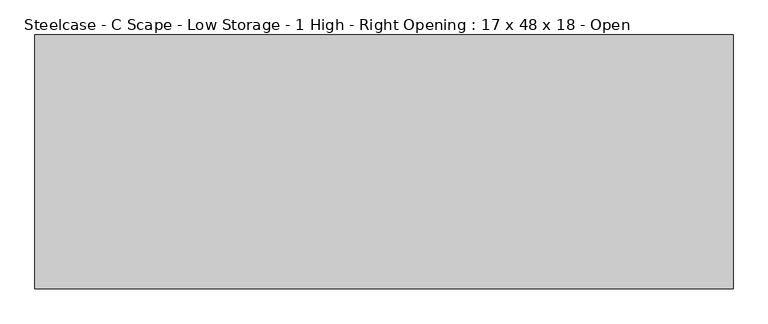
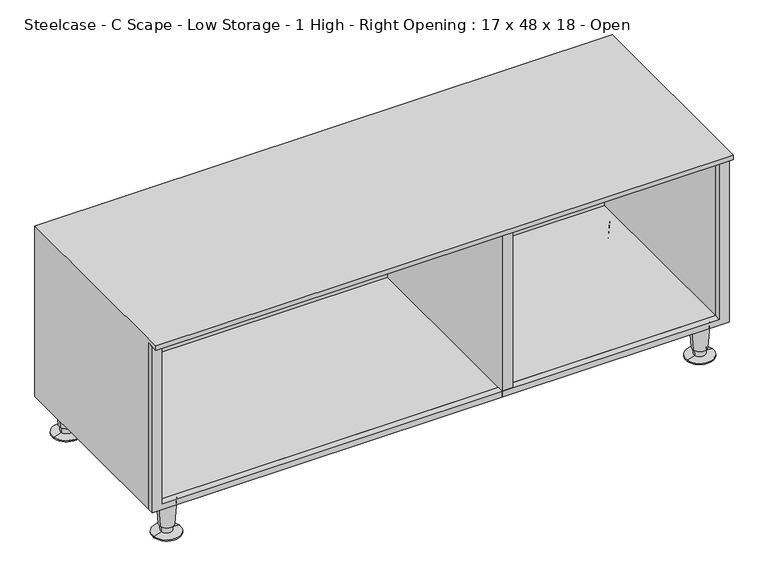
"""IFC4 building model written with IfcOpenShell, lengths in millimetres: furniture geometry, Steelcase - C Scape - Low Storage - 1 High - Right Opening : 17 x 48 x 18 - Open."""

from ifc_helpers import new_model, si_unit, frame, origin, place, context, project, spatial, polyline, circle_curve, outline, extrude, faceted_brep, source, transform, mapped, element, save
from ifc_brep_helpers import plane_surface, cylinder_surface, revolved_surface, advanced_brep


def steelcase_c_scape_low_storage_1_high_right_opening_17_x_48_x_af62cb37(model_context):
    return source(origin(), model_context, "Body", "SolidModel", [
        extrude(outline(polyline([(447.0400097, 0.0), (76.2, 0.0), (76.2, 1217.9313237), (447.0400097, 1217.9313237), (447.0400097, 0.0)]), holes=[polyline([(89.5349964, 1196.5930912), (89.5349964, 21.3382324), (436.2449927, 21.3382324), (436.2449927, 1196.5930912), (89.5349964, 1196.5930912)])]), frame((0.0, -428.8790543, 0.0), z_axis=(0.0, 1.0, 0.0), x_axis=(0.0, 0.0, 1.0)), (0.0, 0.0, 1.0), 13.587814),
        advanced_brep(
        [(1190.6611931, -31.5218435, 76.2), (1152.9994542, -37.2840847, 76.2), (1171.8303237, -34.4029641, 76.2), (1186.7108451, -32.1262463, 19.05), (1156.9498022, -36.6796819, 19.05), (1184.2812581, -32.4979728, 19.05), (1159.3793892, -36.3079555, 19.05), (1183.5924887, -32.6033544, 5.7545598), (1160.0681586, -36.2025738, 5.7545598), (1200.9413721, -29.9489775, 2.5119506), (1142.7192752, -38.8569507, 2.5119506), (1200.9413721, -29.9489775, 0.0), (1142.7192752, -38.8569507, 0.0), (1171.8303237, -34.4029641, 0.0)],
        [
            (0, 1, circle_curve(frame((1171.8303237, -34.4029641, 76.2), z_axis=(0.0, 0.0, 1.0), x_axis=(0.0, -1.0, 0.0)), 19.05)),
            (1, 2),
            (2, 0),
            (1, 0, circle_curve(frame((1171.8303237, -34.4029641, 76.2), z_axis=(0.0, 0.0, 1.0), x_axis=(0.0, -1.0, 0.0)), 19.05)),
            (3, 4, circle_curve(frame((1171.8303237, -34.4029641, 19.05), z_axis=(0.0, 0.0, 1.0), x_axis=(0.0, -1.0, 0.0)), 15.0536827)),
            (4, 1),
            (0, 3),
            (4, 3, circle_curve(frame((1171.8303237, -34.4029641, 19.05), z_axis=(0.0, 0.0, 1.0), x_axis=(0.0, -1.0, 0.0)), 15.0536827)),
            (5, 6, circle_curve(frame((1171.8303237, -34.4029641, 19.05), z_axis=(0.0, 0.0, 1.0), x_axis=(0.0, -1.0, 0.0)), 12.5958232)),
            (6, 4),
            (3, 5),
            (6, 5, circle_curve(frame((1171.8303237, -34.4029641, 19.05), z_axis=(0.0, 0.0, 1.0), x_axis=(0.0, -1.0, 0.0)), 12.5958232)),
            (7, 8, circle_curve(frame((1171.8303237, -34.4029641, 5.7545598), z_axis=(0.0, 0.0, 1.0), x_axis=(0.0, -1.0, 0.0)), 11.8990387)),
            (8, 6),
            (5, 7),
            (8, 7, circle_curve(frame((1171.8303237, -34.4029641, 5.7545598), z_axis=(0.0, 0.0, 1.0), x_axis=(0.0, -1.0, 0.0)), 11.8990387)),
            (9, 10, circle_curve(frame((1171.8303237, -34.4029641, 2.5119506), z_axis=(0.0, 0.0, 1.0), x_axis=(0.0, -1.0, 0.0)), 29.4498071)),
            (10, 8),
            (7, 9),
            (10, 9, circle_curve(frame((1171.8303237, -34.4029641, 2.5119506), z_axis=(0.0, 0.0, 1.0), x_axis=(0.0, -1.0, 0.0)), 29.4498071)),
            (11, 12, circle_curve(frame((1171.8303237, -34.4029641, 0.0), z_axis=(0.0, 0.0, 1.0), x_axis=(0.0, -1.0, 0.0)), 29.4498071)),
            (12, 10),
            (9, 11),
            (12, 11, circle_curve(frame((1171.8303237, -34.4029641, 0.0), z_axis=(0.0, 0.0, 1.0), x_axis=(0.0, -1.0, 0.0)), 29.4498071)),
            (13, 12),
            (11, 13),
        ],
        [
            plane_surface(frame((1171.8303237, -34.4029641, 76.2), z_axis=(0.0, 0.0, 1.0), x_axis=(0.0, -1.0, 0.0))),
            revolved_surface(polyline([(1171.8303237, -53.4529641, 76.2), (1171.8303237, -49.4566468, 19.05)]), (1171.8303237, -34.4029641, 25.4), (0.0, 0.0, -1.0)),
            plane_surface(frame((1171.8303237, -34.4029641, 19.05), z_axis=(0.0, 0.0, -1.0), x_axis=(0.0, -1.0, 0.0))),
            revolved_surface(polyline([(1171.8303237, -46.9987873, 19.05), (1171.8303237, -46.3020028, 5.7545598)]), (1171.8303237, -34.4029641, 25.4), (0.0, 0.0, -1.0)),
            revolved_surface(polyline([(1171.8303237, -46.3020028, 5.7545598), (1171.8303237, -63.8527712, 2.5119506)]), (1171.8303237, -34.4029641, 25.4), (0.0, 0.0, -1.0)),
            cylinder_surface(frame((1171.8303237, -34.4029641, 25.4), z_axis=(0.0, 0.0, -1.0), x_axis=(0.0, -1.0, 0.0)), 29.4498071),
            plane_surface(frame((1171.8303237, -34.4029641, 0.0), z_axis=(0.0, 0.0, -1.0), x_axis=(0.0, -1.0, 0.0))),
        ],
        [
            (0, [[1, 2, 3]]),
            (0, [[4, -3, -2]]),
            (1, [[5, 6, -1, 7]]),
            (1, [[8, -7, -4, -6]]),
            (2, [[9, 10, -5, 11]]),
            (2, [[12, -11, -8, -10]]),
            (3, [[13, 14, -9, 15]]),
            (3, [[16, -15, -12, -14]]),
            (4, [[17, 18, -13, 19]]),
            (4, [[20, -19, -16, -18]]),
            (5, [[21, 22, -17, 23]]),
            (5, [[24, -23, -20, -22]]),
            (6, [[25, -21, 26]]),
            (6, [[-26, -24, -25]]),
        ],
    ),
        advanced_brep(
        [(1190.6611931, -397.1702762, 76.2), (1152.9994542, -402.9325174, 76.2), (1171.8303237, -400.0513968, 76.2), (1186.7108451, -397.774679, 19.05), (1156.9498022, -402.3281146, 19.05), (1184.2812581, -398.1464055, 19.05), (1159.3793892, -401.9563882, 19.05), (1183.5924887, -398.2517871, 5.7545598), (1160.0681586, -401.8510065, 5.7545598), (1200.9413721, -395.5974102, 2.5119506), (1142.7192752, -404.5053834, 2.5119506), (1200.9413721, -395.5974102, 0.0), (1142.7192752, -404.5053834, 0.0), (1171.8303237, -400.0513968, 0.0)],
        [
            (0, 1, circle_curve(frame((1171.8303237, -400.0513968, 76.2), z_axis=(0.0, 0.0, 1.0), x_axis=(0.0, -1.0, 0.0)), 19.05)),
            (1, 2),
            (2, 0),
            (1, 0, circle_curve(frame((1171.8303237, -400.0513968, 76.2), z_axis=(0.0, 0.0, 1.0), x_axis=(0.0, -1.0, 0.0)), 19.05)),
            (3, 4, circle_curve(frame((1171.8303237, -400.0513968, 19.05), z_axis=(0.0, 0.0, 1.0), x_axis=(0.0, -1.0, 0.0)), 15.0536827)),
            (4, 1),
            (0, 3),
            (4, 3, circle_curve(frame((1171.8303237, -400.0513968, 19.05), z_axis=(0.0, 0.0, 1.0), x_axis=(0.0, -1.0, 0.0)), 15.0536827)),
            (5, 6, circle_curve(frame((1171.8303237, -400.0513968, 19.05), z_axis=(0.0, 0.0, 1.0), x_axis=(0.0, -1.0, 0.0)), 12.5958232)),
            (6, 4),
            (3, 5),
            (6, 5, circle_curve(frame((1171.8303237, -400.0513968, 19.05), z_axis=(0.0, 0.0, 1.0), x_axis=(0.0, -1.0, 0.0)), 12.5958232)),
            (7, 8, circle_curve(frame((1171.8303237, -400.0513968, 5.7545598), z_axis=(0.0, 0.0, 1.0), x_axis=(0.0, -1.0, 0.0)), 11.8990387)),
            (8, 6),
            (5, 7),
            (8, 7, circle_curve(frame((1171.8303237, -400.0513968, 5.7545598), z_axis=(0.0, 0.0, 1.0), x_axis=(0.0, -1.0, 0.0)), 11.8990387)),
            (9, 10, circle_curve(frame((1171.8303237, -400.0513968, 2.5119506), z_axis=(0.0, 0.0, 1.0), x_axis=(0.0, -1.0, 0.0)), 29.4498071)),
            (10, 8),
            (7, 9),
            (10, 9, circle_curve(frame((1171.8303237, -400.0513968, 2.5119506), z_axis=(0.0, 0.0, 1.0), x_axis=(0.0, -1.0, 0.0)), 29.4498071)),
            (11, 12, circle_curve(frame((1171.8303237, -400.0513968, 0.0), z_axis=(0.0, 0.0, 1.0), x_axis=(0.0, -1.0, 0.0)), 29.4498071)),
            (12, 10),
            (9, 11),
            (12, 11, circle_curve(frame((1171.8303237, -400.0513968, 0.0), z_axis=(0.0, 0.0, 1.0), x_axis=(0.0, -1.0, 0.0)), 29.4498071)),
            (13, 12),
            (11, 13),
        ],
        [
            plane_surface(frame((1171.8303237, -400.0513968, 76.2), z_axis=(0.0, 0.0, 1.0), x_axis=(0.0, -1.0, 0.0))),
            revolved_surface(polyline([(1171.8303237, -419.1013968, 76.2), (1171.8303237, -415.1050795, 19.05)]), (1171.8303237, -400.0513968, 25.4), (0.0, 0.0, -1.0)),
            plane_surface(frame((1171.8303237, -400.0513968, 19.05), z_axis=(0.0, 0.0, -1.0), x_axis=(0.0, -1.0, 0.0))),
            revolved_surface(polyline([(1171.8303237, -412.64722, 19.05), (1171.8303237, -411.9504355, 5.7545598)]), (1171.8303237, -400.0513968, 25.4), (0.0, 0.0, -1.0)),
            revolved_surface(polyline([(1171.8303237, -411.9504355, 5.7545598), (1171.8303237, -429.5012039, 2.5119506)]), (1171.8303237, -400.0513968, 25.4), (0.0, 0.0, -1.0)),
            cylinder_surface(frame((1171.8303237, -400.0513968, 25.4), z_axis=(0.0, 0.0, -1.0), x_axis=(0.0, -1.0, 0.0)), 29.4498071),
            plane_surface(frame((1171.8303237, -400.0513968, 0.0), z_axis=(0.0, 0.0, -1.0), x_axis=(0.0, -1.0, 0.0))),
        ],
        [
            (0, [[1, 2, 3]]),
            (0, [[4, -3, -2]]),
            (1, [[5, 6, -1, 7]]),
            (1, [[8, -7, -4, -6]]),
            (2, [[9, 10, -5, 11]]),
            (2, [[12, -11, -8, -10]]),
            (3, [[13, 14, -9, 15]]),
            (3, [[16, -15, -12, -14]]),
            (4, [[17, 18, -13, 19]]),
            (4, [[20, -19, -16, -18]]),
            (5, [[21, 22, -17, 23]]),
            (5, [[24, -23, -20, -22]]),
            (6, [[25, -21, 26]]),
            (6, [[-26, -24, -25]]),
        ],
    ),
        advanced_brep(
        [(65.5422821, -397.1702762, 76.2), (27.8805432, -402.9325174, 76.2), (46.7114126, -400.0513968, 76.2), (61.5919341, -397.774679, 19.05), (31.8308912, -402.3281146, 19.05), (59.1623471, -398.1464055, 19.05), (34.2604781, -401.9563882, 19.05), (58.4735776, -398.2517871, 5.7545598), (34.9492476, -401.8510065, 5.7545598), (75.8224611, -395.5974102, 2.5119506), (17.6003641, -404.5053834, 2.5119506), (75.8224611, -395.5974102, 0.0), (17.6003641, -404.5053834, 0.0), (46.7114126, -400.0513968, 0.0)],
        [
            (0, 1, circle_curve(frame((46.7114126, -400.0513968, 76.2), z_axis=(0.0, 0.0, 1.0), x_axis=(0.0, -1.0, 0.0)), 19.05)),
            (1, 2),
            (2, 0),
            (1, 0, circle_curve(frame((46.7114126, -400.0513968, 76.2), z_axis=(0.0, 0.0, 1.0), x_axis=(0.0, -1.0, 0.0)), 19.05)),
            (3, 4, circle_curve(frame((46.7114126, -400.0513968, 19.05), z_axis=(0.0, 0.0, 1.0), x_axis=(0.0, -1.0, 0.0)), 15.0536827)),
            (4, 1),
            (0, 3),
            (4, 3, circle_curve(frame((46.7114126, -400.0513968, 19.05), z_axis=(0.0, 0.0, 1.0), x_axis=(0.0, -1.0, 0.0)), 15.0536827)),
            (5, 6, circle_curve(frame((46.7114126, -400.0513968, 19.05), z_axis=(0.0, 0.0, 1.0), x_axis=(0.0, -1.0, 0.0)), 12.5958232)),
            (6, 4),
            (3, 5),
            (6, 5, circle_curve(frame((46.7114126, -400.0513968, 19.05), z_axis=(0.0, 0.0, 1.0), x_axis=(0.0, -1.0, 0.0)), 12.5958232)),
            (7, 8, circle_curve(frame((46.7114126, -400.0513968, 5.7545598), z_axis=(0.0, 0.0, 1.0), x_axis=(0.0, -1.0, 0.0)), 11.8990387)),
            (8, 6),
            (5, 7),
            (8, 7, circle_curve(frame((46.7114126, -400.0513968, 5.7545598), z_axis=(0.0, 0.0, 1.0), x_axis=(0.0, -1.0, 0.0)), 11.8990387)),
            (9, 10, circle_curve(frame((46.7114126, -400.0513968, 2.5119506), z_axis=(0.0, 0.0, 1.0), x_axis=(0.0, -1.0, 0.0)), 29.4498071)),
            (10, 8),
            (7, 9),
            (10, 9, circle_curve(frame((46.7114126, -400.0513968, 2.5119506), z_axis=(0.0, 0.0, 1.0), x_axis=(0.0, -1.0, 0.0)), 29.4498071)),
            (11, 12, circle_curve(frame((46.7114126, -400.0513968, 0.0), z_axis=(0.0, 0.0, 1.0), x_axis=(0.0, -1.0, 0.0)), 29.4498071)),
            (12, 10),
            (9, 11),
            (12, 11, circle_curve(frame((46.7114126, -400.0513968, 0.0), z_axis=(0.0, 0.0, 1.0), x_axis=(0.0, -1.0, 0.0)), 29.4498071)),
            (13, 12),
            (11, 13),
        ],
        [
            plane_surface(frame((46.7114126, -400.0513968, 76.2), z_axis=(0.0, 0.0, 1.0), x_axis=(0.0, -1.0, 0.0))),
            revolved_surface(polyline([(46.7114126, -419.1013968, 76.2), (46.7114126, -415.1050795, 19.05)]), (46.7114126, -400.0513968, 25.4), (0.0, 0.0, -1.0)),
            plane_surface(frame((46.7114126, -400.0513968, 19.05), z_axis=(0.0, 0.0, -1.0), x_axis=(0.0, -1.0, 0.0))),
            revolved_surface(polyline([(46.7114126, -412.64722, 19.05), (46.7114126, -411.9504355, 5.7545598)]), (46.7114126, -400.0513968, 25.4), (0.0, 0.0, -1.0)),
            revolved_surface(polyline([(46.7114126, -411.9504355, 5.7545598), (46.7114126, -429.5012039, 2.5119506)]), (46.7114126, -400.0513968, 25.4), (0.0, 0.0, -1.0)),
            cylinder_surface(frame((46.7114126, -400.0513968, 25.4), z_axis=(0.0, 0.0, -1.0), x_axis=(0.0, -1.0, 0.0)), 29.4498071),
            plane_surface(frame((46.7114126, -400.0513968, 0.0), z_axis=(0.0, 0.0, -1.0), x_axis=(0.0, -1.0, 0.0))),
        ],
        [
            (0, [[1, 2, 3]]),
            (0, [[4, -3, -2]]),
            (1, [[5, 6, -1, 7]]),
            (1, [[8, -7, -4, -6]]),
            (2, [[9, 10, -5, 11]]),
            (2, [[12, -11, -8, -10]]),
            (3, [[13, 14, -9, 15]]),
            (3, [[16, -15, -12, -14]]),
            (4, [[17, 18, -13, 19]]),
            (4, [[20, -19, -16, -18]]),
            (5, [[21, 22, -17, 23]]),
            (5, [[24, -23, -20, -22]]),
            (6, [[25, -21, 26]]),
            (6, [[-26, -24, -25]]),
        ],
    ),
        advanced_brep(
        [(65.5422821, -31.5218435, 76.2), (27.8805432, -37.2840847, 76.2), (46.7114126, -34.4029641, 76.2), (61.5919341, -32.1262463, 19.05), (31.8308912, -36.6796819, 19.05), (59.1623471, -32.4979728, 19.05), (34.2604781, -36.3079555, 19.05), (58.4735776, -32.6033544, 5.7545598), (34.9492476, -36.2025738, 5.7545598), (75.8224611, -29.9489775, 2.5119506), (17.6003641, -38.8569507, 2.5119506), (75.8224611, -29.9489775, 0.0), (17.6003641, -38.8569507, 0.0), (46.7114126, -34.4029641, 0.0)],
        [
            (0, 1, circle_curve(frame((46.7114126, -34.4029641, 76.2), z_axis=(0.0, 0.0, 1.0), x_axis=(0.0, -1.0, 0.0)), 19.05)),
            (1, 2),
            (2, 0),
            (1, 0, circle_curve(frame((46.7114126, -34.4029641, 76.2), z_axis=(0.0, 0.0, 1.0), x_axis=(0.0, -1.0, 0.0)), 19.05)),
            (3, 4, circle_curve(frame((46.7114126, -34.4029641, 19.05), z_axis=(0.0, 0.0, 1.0), x_axis=(0.0, -1.0, 0.0)), 15.0536827)),
            (4, 1),
            (0, 3),
            (4, 3, circle_curve(frame((46.7114126, -34.4029641, 19.05), z_axis=(0.0, 0.0, 1.0), x_axis=(0.0, -1.0, 0.0)), 15.0536827)),
            (5, 6, circle_curve(frame((46.7114126, -34.4029641, 19.05), z_axis=(0.0, 0.0, 1.0), x_axis=(0.0, -1.0, 0.0)), 12.5958232)),
            (6, 4),
            (3, 5),
            (6, 5, circle_curve(frame((46.7114126, -34.4029641, 19.05), z_axis=(0.0, 0.0, 1.0), x_axis=(0.0, -1.0, 0.0)), 12.5958232)),
            (7, 8, circle_curve(frame((46.7114126, -34.4029641, 5.7545598), z_axis=(0.0, 0.0, 1.0), x_axis=(0.0, -1.0, 0.0)), 11.8990387)),
            (8, 6),
            (5, 7),
            (8, 7, circle_curve(frame((46.7114126, -34.4029641, 5.7545598), z_axis=(0.0, 0.0, 1.0), x_axis=(0.0, -1.0, 0.0)), 11.8990387)),
            (9, 10, circle_curve(frame((46.7114126, -34.4029641, 2.5119506), z_axis=(0.0, 0.0, 1.0), x_axis=(0.0, -1.0, 0.0)), 29.4498071)),
            (10, 8),
            (7, 9),
            (10, 9, circle_curve(frame((46.7114126, -34.4029641, 2.5119506), z_axis=(0.0, 0.0, 1.0), x_axis=(0.0, -1.0, 0.0)), 29.4498071)),
            (11, 12, circle_curve(frame((46.7114126, -34.4029641, 0.0), z_axis=(0.0, 0.0, 1.0), x_axis=(0.0, -1.0, 0.0)), 29.4498071)),
            (12, 10),
            (9, 11),
            (12, 11, circle_curve(frame((46.7114126, -34.4029641, 0.0), z_axis=(0.0, 0.0, 1.0), x_axis=(0.0, -1.0, 0.0)), 29.4498071)),
            (13, 12),
            (11, 13),
        ],
        [
            plane_surface(frame((46.7114126, -34.4029641, 76.2), z_axis=(0.0, 0.0, 1.0), x_axis=(0.0, -1.0, 0.0))),
            revolved_surface(polyline([(46.7114126, -53.4529641, 76.2), (46.7114126, -49.4566468, 19.05)]), (46.7114126, -34.4029641, 25.4), (0.0, 0.0, -1.0)),
            plane_surface(frame((46.7114126, -34.4029641, 19.05), z_axis=(0.0, 0.0, -1.0), x_axis=(0.0, -1.0, 0.0))),
            revolved_surface(polyline([(46.7114126, -46.9987873, 19.05), (46.7114126, -46.3020028, 5.7545598)]), (46.7114126, -34.4029641, 25.4), (0.0, 0.0, -1.0)),
            revolved_surface(polyline([(46.7114126, -46.3020028, 5.7545598), (46.7114126, -63.8527712, 2.5119506)]), (46.7114126, -34.4029641, 25.4), (0.0, 0.0, -1.0)),
            cylinder_surface(frame((46.7114126, -34.4029641, 25.4), z_axis=(0.0, 0.0, -1.0), x_axis=(0.0, -1.0, 0.0)), 29.4498071),
            plane_surface(frame((46.7114126, -34.4029641, 0.0), z_axis=(0.0, 0.0, -1.0), x_axis=(0.0, -1.0, 0.0))),
        ],
        [
            (0, [[1, 2, 3]]),
            (0, [[4, -3, -2]]),
            (1, [[5, 6, -1, 7]]),
            (1, [[8, -7, -4, -6]]),
            (2, [[9, 10, -5, 11]]),
            (2, [[12, -11, -8, -10]]),
            (3, [[13, 14, -9, 15]]),
            (3, [[16, -15, -12, -14]]),
            (4, [[17, 18, -13, 19]]),
            (4, [[20, -19, -16, -18]]),
            (5, [[21, 22, -17, 23]]),
            (5, [[24, -23, -20, -22]]),
            (6, [[25, -21, 26]]),
            (6, [[-26, -24, -25]]),
        ],
    ),
        faceted_brep([(1217.9313237, 0.0, 76.2), (0.0, 0.0, 76.2), (0.0, 0.0, 457.2), (1217.9313237, 0.0, 457.2), (0.0, -415.2912402, 76.2), (0.0, -415.2912402, 447.0400097), (0.0, -442.5950775, 447.0400097), (0.0, -442.5950775, 457.2), (21.3382324, -9.525, 447.0400097), (21.3382324, -415.2912402, 447.0400097), (21.3382324, -415.2912402, 89.5349964), (21.3382324, -9.525, 89.5349964), (738.3783101, -9.525, 447.0400097), (738.3783101, -9.525, 89.5349964), (738.3783101, -428.8790543, 76.2), (738.3783101, -428.8790543, 447.0400097), (738.3783101, -415.2912402, 89.5349964), (738.3783101, -415.2912402, 76.2), (760.7303101, -428.8790543, 447.0400097), (760.7303101, -428.8790543, 76.2), (760.7303101, -415.2912402, 76.2), (760.7303101, -415.2912402, 89.5349964), (760.7303101, -9.525, 89.5349964), (760.7303101, -9.525, 447.0400097), (1196.5930912, -9.525, 447.0400097), (1196.5930912, -9.525, 89.5349964), (1196.5930912, -415.2912402, 447.0400097), (1196.5930912, -415.2912402, 89.5349964), (1217.9313237, -415.2912402, 76.2), (1217.9313237, -442.5950775, 457.2), (1217.9313237, -442.5950775, 447.0400097), (1217.9313237, -415.2912402, 447.0400097)], [[[0, 1, 2, 3]], [[1, 4, 5, 6, 7, 2]], [[8, 9, 10, 11]], [[12, 8, 11, 13]], [[14, 15, 12, 13, 16, 17]], [[18, 19, 20, 21, 22, 23]], [[24, 23, 22, 25]], [[26, 24, 25, 27]], [[28, 0, 3, 29, 30, 31]], [[3, 2, 7, 29]], [[30, 6, 5, 9, 8, 12, 15, 18, 23, 24, 26, 31]], [[10, 16, 13, 11]], [[21, 27, 25, 22]], [[0, 28, 20, 19, 14, 17, 4, 1]], [[20, 28, 31, 26, 27, 21]], [[4, 17, 16, 10, 9, 5]], [[14, 19, 18, 15]], [[29, 7, 6, 30]]]),
    ])


if __name__ == "__main__":
    model = new_model("IFC4")
    model_context = context("Model", 3, world=origin())
    ifc_project = project(units=[si_unit("LENGTHUNIT", "METRE", prefix="MILLI")], contexts=[model_context])
    site = spatial("IfcSite", under=ifc_project)
    building = spatial("IfcBuilding", under=site)
    placement = place(None, origin())
    steelcase_c_scape_low_storage_1_high_right_opening_17_x_48_x_shape = steelcase_c_scape_low_storage_1_high_right_opening_17_x_48_x_af62cb37(model_context)
    element("IfcFurniture", 1, ObjectType="Steelcase - C Scape - Low Storage - 1 High - Right Opening : 17 x 48 x 18 - Open", at=placement, inside=building, context=model_context, shape_type="MappedRepresentation", body=[
        mapped(steelcase_c_scape_low_storage_1_high_right_opening_17_x_48_x_shape, transform((0.0, 0.0, 0.0), x_axis=(1.0, 0.0, 0.0), y_axis=(0.0, 1.0, 0.0), z_axis=(0.0, 0.0, 1.0))),
    ])
    save(model, "model.ifc")
